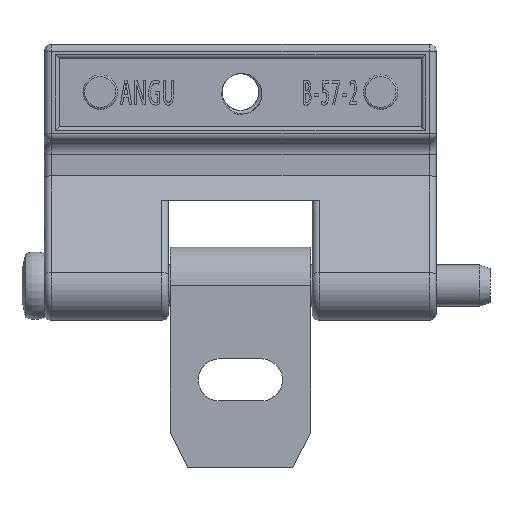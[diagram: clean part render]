
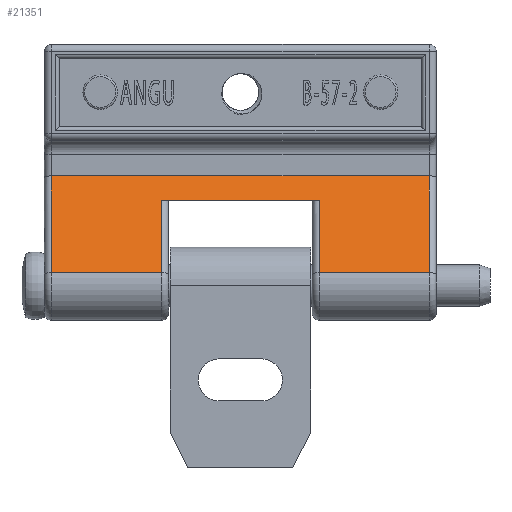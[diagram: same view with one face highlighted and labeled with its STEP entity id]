
A CAD part, front view. The second image highlights one B-rep face of the part: STEP entity #21351.
In plain terms, the highlighted planar face has unit normal (0, -0.927, 0.376).
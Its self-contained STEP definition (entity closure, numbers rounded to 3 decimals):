
#51 = EDGE_CURVE ( 'NONE', #10339, #22401, #21545, .T. ) ;
#750 = DIRECTION ( 'NONE',  ( 0., -0.376, -0.927 ) ) ;
#1359 = VERTEX_POINT ( 'NONE', #14066 ) ;
#2065 = DIRECTION ( 'NONE',  ( 0., -0.376, -0.927 ) ) ;
#3029 = EDGE_CURVE ( 'NONE', #8399, #5741, #3989, .T. ) ;
#3690 = EDGE_CURVE ( 'NONE', #1359, #22401, #10155, .T. ) ;
#3695 = CARTESIAN_POINT ( 'NONE',  ( -26.95, 25.724, -10.423 ) ) ;
#3898 = EDGE_CURVE ( 'NONE', #1359, #7814, #5879, .T. ) ;
#3989 = LINE ( 'NONE', #12909, #21039 ) ;
#5023 = ORIENTED_EDGE ( 'NONE', *, *, #3898, .T. ) ;
#5738 = VECTOR ( 'NONE', #750, 1000. ) ;
#5741 = VERTEX_POINT ( 'NONE', #20597 ) ;
#5806 = DIRECTION ( 'NONE',  ( 0., 0.376, 0.927 ) ) ;
#5879 = LINE ( 'NONE', #9522, #18280 ) ;
#6520 = DIRECTION ( 'NONE',  ( -1., 0., 0. ) ) ;
#6596 = CARTESIAN_POINT ( 'NONE',  ( -26.95, 22.35, -18.75 ) ) ;
#6876 = DIRECTION ( 'NONE',  ( -1., 0., 0. ) ) ;
#7217 = FACE_OUTER_BOUND ( 'NONE', #21045, .T. ) ;
#7237 = CARTESIAN_POINT ( 'NONE',  ( 27.95, 16.762, -32.541 ) ) ;
#7565 = CARTESIAN_POINT ( 'NONE',  ( 27.95, 25.724, -10.423 ) ) ;
#7585 = LINE ( 'NONE', #7237, #16193 ) ;
#7814 = VERTEX_POINT ( 'NONE', #15545 ) ;
#8032 = CARTESIAN_POINT ( 'NONE',  ( 11.25, 16.762, -32.541 ) ) ;
#8399 = VERTEX_POINT ( 'NONE', #19612 ) ;
#8772 = AXIS2_PLACEMENT_3D ( 'NONE', #7565, #14707, #5806 ) ;
#8984 = CARTESIAN_POINT ( 'NONE',  ( -26.95, 16.762, -32.541 ) ) ;
#9056 = ORIENTED_EDGE ( 'NONE', *, *, #18457, .F. ) ;
#9110 = DIRECTION ( 'NONE',  ( -1., 0., 0. ) ) ;
#9522 = CARTESIAN_POINT ( 'NONE',  ( -11.25, 20.952, -22.2 ) ) ;
#10155 = LINE ( 'NONE', #13667, #15730 ) ;
#10339 = VERTEX_POINT ( 'NONE', #6596 ) ;
#10401 = CARTESIAN_POINT ( 'NONE',  ( 27.95, 22.35, -18.75 ) ) ;
#10752 = EDGE_CURVE ( 'NONE', #5741, #10339, #15776, .T. ) ;
#10837 = ORIENTED_EDGE ( 'NONE', *, *, #3029, .T. ) ;
#10985 = ORIENTED_EDGE ( 'NONE', *, *, #3690, .F. ) ;
#11325 = VERTEX_POINT ( 'NONE', #19855 ) ;
#11724 = VECTOR ( 'NONE', #20963, 1000. ) ;
#12270 = LINE ( 'NONE', #22954, #19940 ) ;
#12909 = CARTESIAN_POINT ( 'NONE',  ( 26.95, 25.724, -10.423 ) ) ;
#13667 = CARTESIAN_POINT ( 'NONE',  ( 27.95, 16.762, -32.541 ) ) ;
#14066 = CARTESIAN_POINT ( 'NONE',  ( -11.25, 16.762, -32.541 ) ) ;
#14707 = DIRECTION ( 'NONE',  ( 0., 0.927, -0.376 ) ) ;
#15050 = LINE ( 'NONE', #20225, #5738 ) ;
#15421 = ORIENTED_EDGE ( 'NONE', *, *, #51, .T. ) ;
#15545 = CARTESIAN_POINT ( 'NONE',  ( -11.25, 20.952, -22.2 ) ) ;
#15661 = ORIENTED_EDGE ( 'NONE', *, *, #10752, .T. ) ;
#15730 = VECTOR ( 'NONE', #6520, 1000. ) ;
#15776 = LINE ( 'NONE', #10401, #11724 ) ;
#16193 = VECTOR ( 'NONE', #9110, 1000. ) ;
#16403 = EDGE_CURVE ( 'NONE', #8399, #17074, #7585, .T. ) ;
#16901 = DIRECTION ( 'NONE',  ( 0., 0.376, 0.927 ) ) ;
#17074 = VERTEX_POINT ( 'NONE', #8032 ) ;
#17081 = EDGE_CURVE ( 'NONE', #11325, #17074, #15050, .T. ) ;
#18018 = ORIENTED_EDGE ( 'NONE', *, *, #16403, .F. ) ;
#18237 = PLANE ( 'NONE',  #8772 ) ;
#18280 = VECTOR ( 'NONE', #16901, 1000. ) ;
#18457 = EDGE_CURVE ( 'NONE', #11325, #7814, #12270, .T. ) ;
#18994 = VECTOR ( 'NONE', #2065, 1000. ) ;
#19612 = CARTESIAN_POINT ( 'NONE',  ( 26.95, 16.762, -32.541 ) ) ;
#19855 = CARTESIAN_POINT ( 'NONE',  ( 11.25, 20.952, -22.2 ) ) ;
#19940 = VECTOR ( 'NONE', #6876, 1000. ) ;
#20064 = DIRECTION ( 'NONE',  ( 0., 0.376, 0.927 ) ) ;
#20225 = CARTESIAN_POINT ( 'NONE',  ( 11.25, 16.762, -32.541 ) ) ;
#20597 = CARTESIAN_POINT ( 'NONE',  ( 26.95, 22.35, -18.75 ) ) ;
#20963 = DIRECTION ( 'NONE',  ( -1., 0., 0. ) ) ;
#20972 = ORIENTED_EDGE ( 'NONE', *, *, #17081, .T. ) ;
#21039 = VECTOR ( 'NONE', #20064, 1000. ) ;
#21045 = EDGE_LOOP ( 'NONE', ( #10985, #5023, #9056, #20972, #18018, #10837, #15661, #15421 ) ) ;
#21351 = ADVANCED_FACE ( 'NONE', ( #7217 ), #18237, .F. ) ;
#21545 = LINE ( 'NONE', #3695, #18994 ) ;
#22401 = VERTEX_POINT ( 'NONE', #8984 ) ;
#22954 = CARTESIAN_POINT ( 'NONE',  ( 27.95, 20.952, -22.2 ) ) ;
